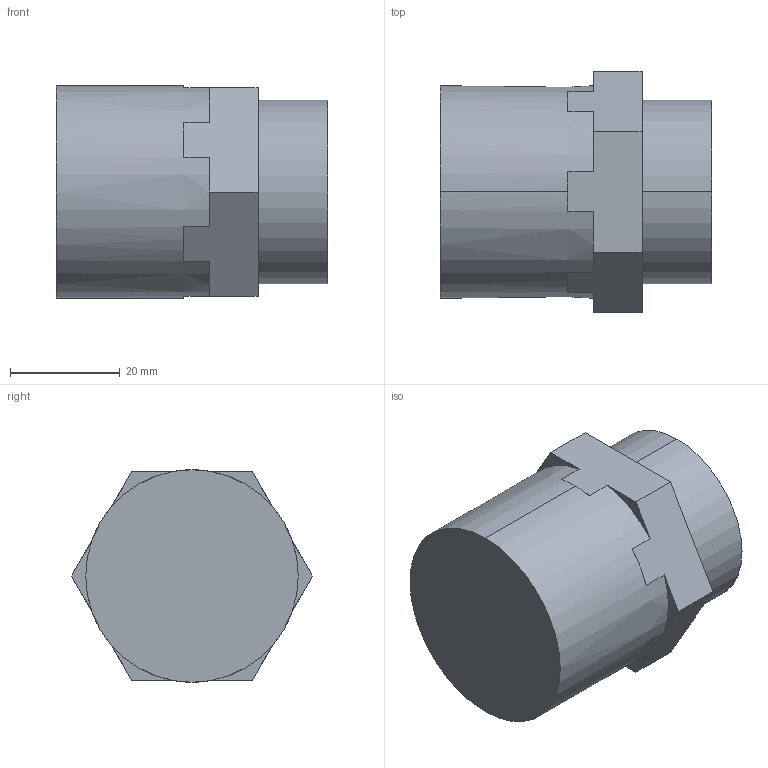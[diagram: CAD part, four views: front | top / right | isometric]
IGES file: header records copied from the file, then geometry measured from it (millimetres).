
Start section: SolidWorks IGES file using analytic representation for surfaces
Global section: file name: S:\Product Visuals\Pumps to be Defeatured\140 fittings\FITTING ASSEMBLIES\DEFEATURED\16-weldable.IGS; native system: SolidWorks 2012; preprocessor: SolidWorks 2012; author: rachel.dressel; date: 121203.122041; units: inch
Bounding box: 49.5 x 43.99 x 38.79 mm (x, y, z)
Volume: 48262.7 mm3; surface area: 9511.5 mm2
Topology: 1 solids, 1 shells, 28 faces, 72 edges, 48 vertices
Faces by surface type: plane 22, revolution 6
